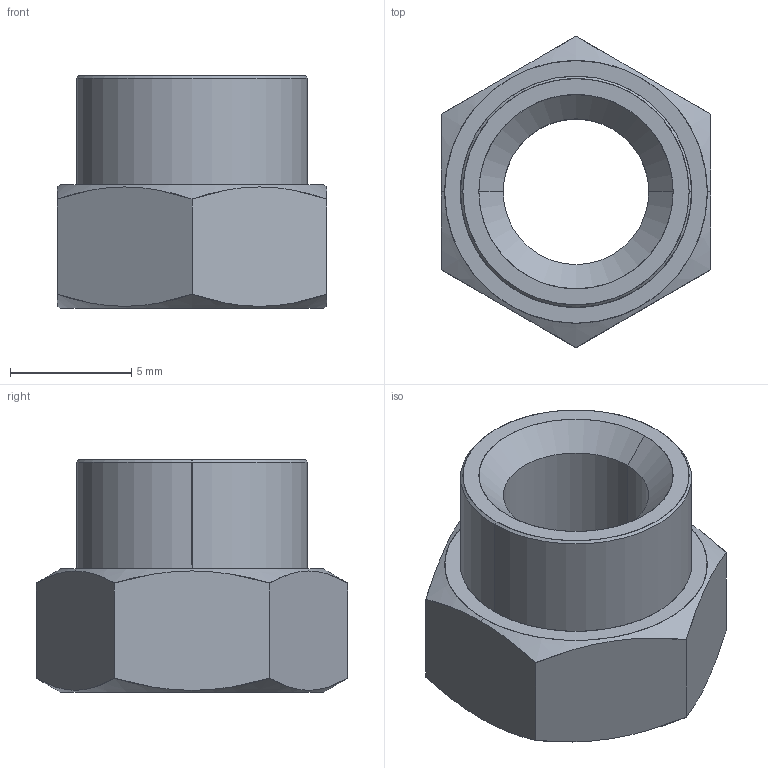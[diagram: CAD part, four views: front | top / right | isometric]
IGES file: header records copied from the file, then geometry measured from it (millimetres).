
Start section: SolidWorks IGES file using analytic representation for surfaces
Global section: file name: C:\Users\liam_\OneDrive\Desktop\Work\Mat Davis Pending 20181125\automotion\P SERIES\P0827.ZP_v2\P0827.ZP_v2_20181231_IGES\P0827.060-08G-ZP.igs; native system: SolidWorks 2017; preprocessor: SolidWorks 2017; author: liam_; date: 181231.110820; units: millimetre
Bounding box: 11.1 x 12.82 x 9.58 mm (x, y, z)
Surface area: 631.3 mm2 (no closed solid volume)
Topology: 0 solids, 0 shells, 23 faces, 400 edges, 400 vertices
Faces by surface type: revolution 14, bspline 9
